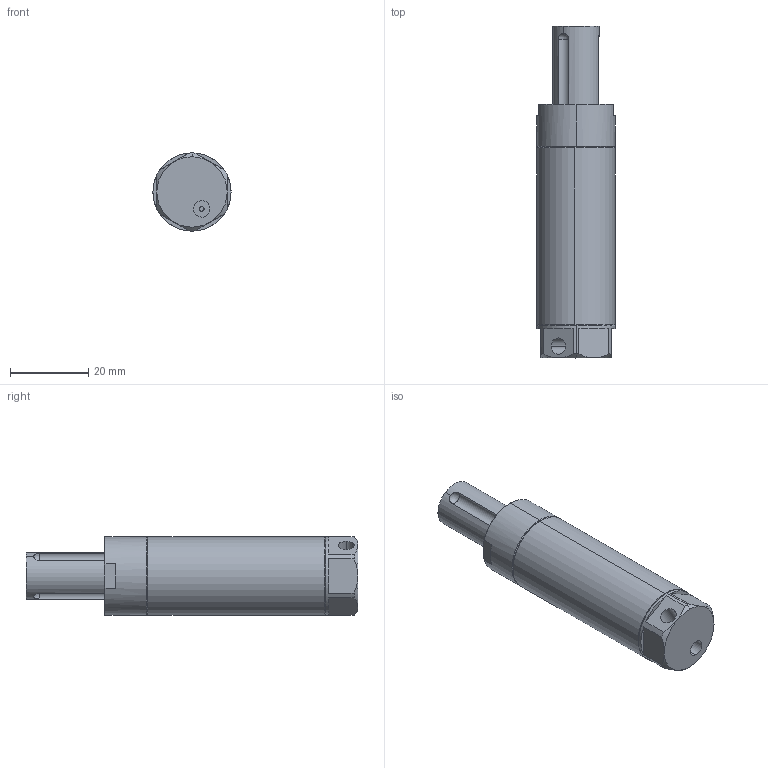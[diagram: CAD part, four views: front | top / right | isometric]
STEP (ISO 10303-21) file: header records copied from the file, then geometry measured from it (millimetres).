
FILE_DESCRIPTION (( 'STEP AP214' ), '1' );
FILE_NAME ('VFG20-20.STEP', '2019-11-18T04:02:55', ( '微软用户' ), ( '微软中国' ), 'SwSTEP 2.0', 'SolidWorks 2016', '' );
FILE_SCHEMA (( 'AUTOMOTIVE_DESIGN' ));
Length unit declared in the file: millimetre
Products named in the file (1): VFG20-20
Bounding box: 20 x 85 x 20 mm (x, y, z)
Volume: 16028.4 mm3; surface area: 14973.9 mm2
Topology: 4 solids, 4 shells, 258 faces, 576 edges, 338 vertices
Faces by surface type: cylinder 103, cone 84, plane 44, torus 24, bspline 3
Entity records: 11661 total; most frequent: CARTESIAN_POINT 3017, DIRECTION 1289, ORIENTED_EDGE 1140, EDGE_CURVE 570, AXIS2_PLACEMENT_3D 537, VERTEX_POINT 338, EDGE_LOOP 292, CIRCLE 281
